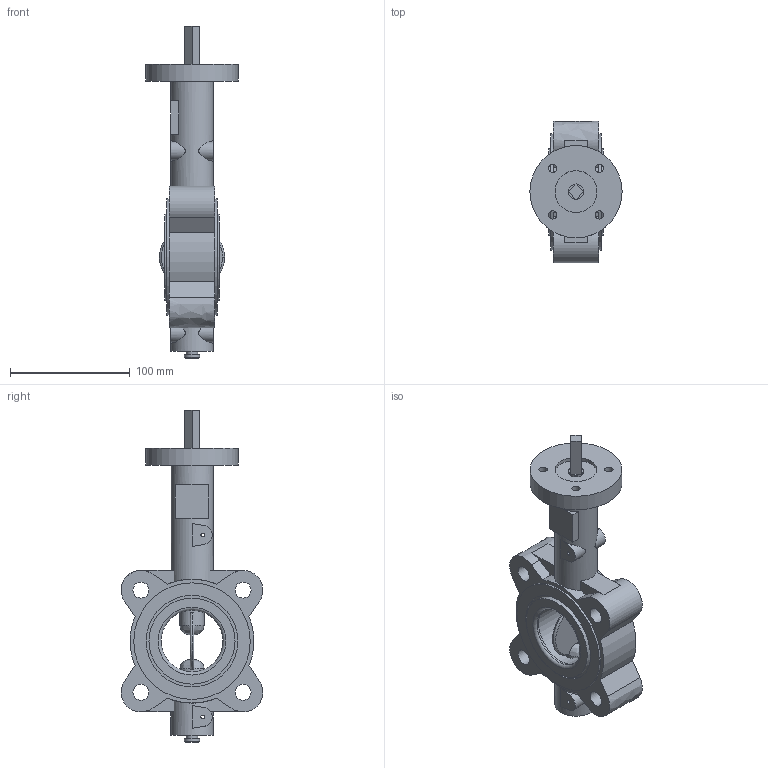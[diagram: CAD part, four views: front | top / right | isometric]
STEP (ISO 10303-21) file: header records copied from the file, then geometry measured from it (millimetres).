
FILE_DESCRIPTION((' '),'2;1');
FILE_NAME('N:\Technical Support\Private\Jomar Valve CAD\Actuation\Butterfly\600-02DS_BFusionCopy.stp','2017-06-05T15:42:25',(' '),(' '),' ','ACIS',' ');
FILE_SCHEMA(('CONFIG_CONTROL_DESIGN'));
Length unit declared in the file: inch
Products named in the file (7): N:\Technical Support\Private\Jomar Valve CAD\Actuation\Butterfly\600-02DS_BFusionCopy.stp; Body1; Body2; Body3; Body4; Body5; Body6
Assembly tree (6 placements, depth 2):
  N:\Technical Support\Private\Jomar Valve CAD\Actuation\Butterfly\600-02DS_BFusionCopy.stp
    Body1
    Body2
    Body3
    Body4
    Body5
    Body6
Bounding box: 77 x 118.14 x 277.23 mm (x, y, z)
Volume: 663420.3 mm3; surface area: 129031.2 mm2
Topology: 6 solids, 6 shells, 138 faces, 349 edges, 229 vertices
Faces by surface type: plane 68, cylinder 43, bspline 24, torus 2, cone 1
Full cylindrical faces by diameter (mm): 3.175 x2, 6.858 x4, 9.754 x1, 12.7 x1, 12.728 x1, 13.335 x4, 20.32 x2, 35 x1, 35.56 x2, 51.562 x2, 71.882 x1, 76.454 x2, 77 x1, 97.282 x2
Entity records: 5489 total; most frequent: CARTESIAN_POINT 1406, DIRECTION 642, ORIENTED_EDGE 606, EDGE_CURVE 303, AXIS2_PLACEMENT_3D 252, VERTEX_POINT 215, EDGE_LOOP 200, VECTOR 138
